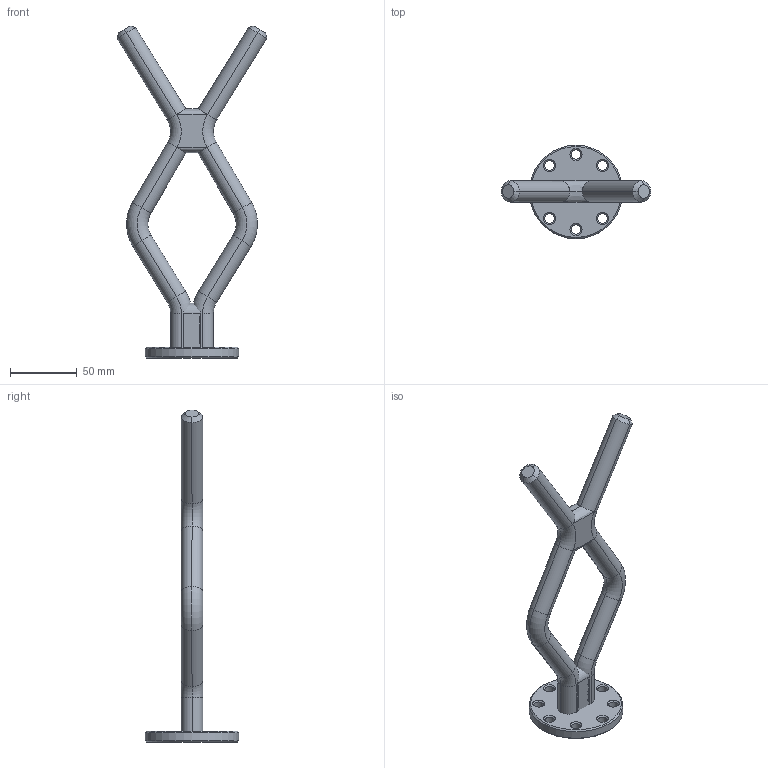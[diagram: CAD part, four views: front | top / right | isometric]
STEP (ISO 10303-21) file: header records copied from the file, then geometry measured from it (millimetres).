
FILE_DESCRIPTION(/* description */ ('ROV - FISHTAIL - 316L, CASTED - 4853-001'),/* implementation_level */ '2;1');
FILE_NAME(/* name */ 'IKM-6000336.stp',/* time_stamp */ '2025-01-15T09:22:24+01:00',/* author */ ('KateB'),/* organization */ ('IKM Subsea AS'),/* preprocessor_version */ 'ST-DEVELOPER v19.2',/* originating_system */ 'Autodesk Inventor 2023',/* authorisation */ '');
FILE_SCHEMA (('AUTOMOTIVE_DESIGN { 1 0 10303 214 3 1 1 }'));
Length unit declared in the file: millimetre
Products named in the file (1): IKM-6000336
Bounding box: 111.96 x 70 x 248.43 mm (x, y, z)
Volume: 140043.6 mm3; surface area: 43733.6 mm2
Topology: 6 solids, 6 shells, 151 faces, 324 edges, 192 vertices
Faces by surface type: cylinder 48, plane 35, torus 28, cone 26, bspline 12, sphere 2
Full cylindrical faces by diameter (mm): 7 x8, 70 x1
Entity records: 4441 total; most frequent: CARTESIAN_POINT 1032, DIRECTION 757, ORIENTED_EDGE 648, EDGE_CURVE 324, AXIS2_PLACEMENT_3D 314, VERTEX_POINT 192, EDGE_LOOP 174, CIRCLE 174
